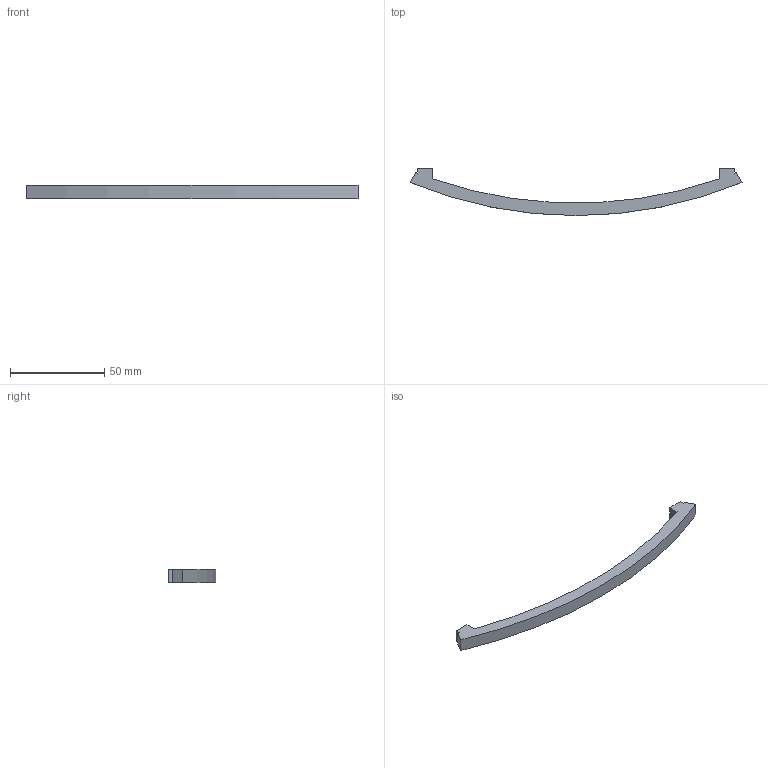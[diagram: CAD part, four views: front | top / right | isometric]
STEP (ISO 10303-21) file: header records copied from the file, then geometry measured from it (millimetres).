
FILE_DESCRIPTION( ( '' ), '1' );
FILE_NAME( 'D:/1.AUTOCAD EXPORT/Group 10/sheet_10_1/Remaining/9113687.stp', '2013-11-08T10:35:45', ( '' ), ( '' ), ' ', ' ', ' ' );
FILE_SCHEMA( ( 'CONFIG_CONTROL_DESIGN' ) );
Length unit declared in the file: millimetre
Products named in the file (1): 1
Bounding box: 176 x 25 x 7 mm (x, y, z)
Volume: 8263.4 mm3; surface area: 5259.8 mm2
Topology: 1 solids, 1 shells, 20 faces, 48 edges, 32 vertices
Faces by surface type: plane 12, cylinder 8
Entity records: 632 total; most frequent: DIRECTION 106, CARTESIAN_POINT 101, ORIENTED_EDGE 96, EDGE_CURVE 48, AXIS2_PLACEMENT_3D 37, VERTEX_POINT 32, LINE 32, VECTOR 32
